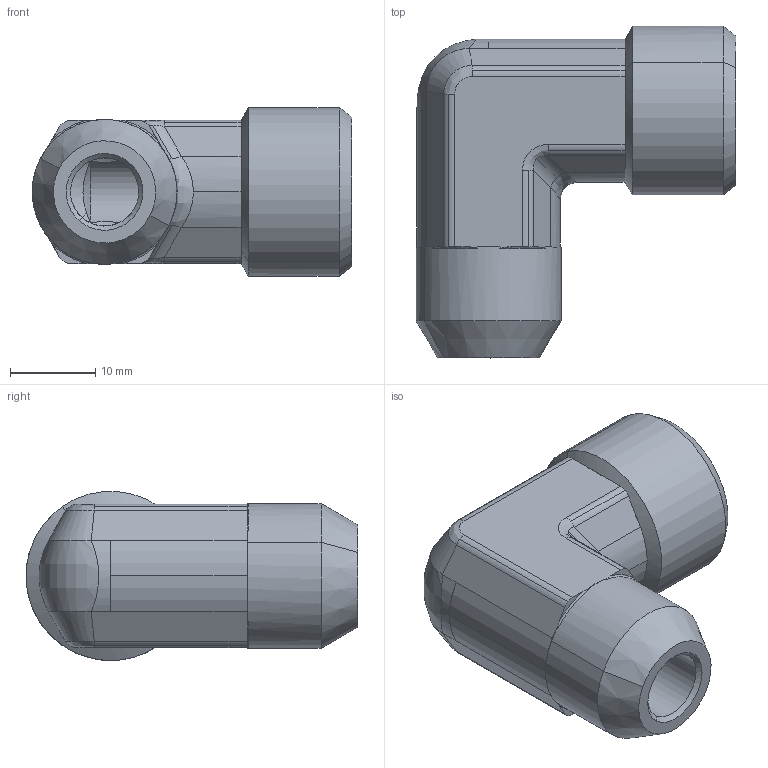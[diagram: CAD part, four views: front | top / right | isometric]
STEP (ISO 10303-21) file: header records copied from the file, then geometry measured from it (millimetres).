
FILE_DESCRIPTION((''),'2;1');
FILE_NAME('105817.stp','2007-10-31T14:41:44',(''),(''),'AutoCAD STEP 2000i','AutoCAD 2000i',', , ');
FILE_SCHEMA(('CONFIG_CONTROL_DESIGN'));
Length unit declared in the file: millimetre
Products named in the file (2): 105817.0; 3090#0
Assembly tree (1 placements, depth 2):
  105817.0
    3090#0
Bounding box: 37.5 x 38.92 x 19.8 mm (x, y, z)
Volume: 10578 mm3; surface area: 5091.7 mm2
Topology: 1 solids, 1 shells, 105 faces, 254 edges, 152 vertices
Faces by surface type: cylinder 42, plane 29, cone 18, bspline 16
Entity records: 4301 total; most frequent: CARTESIAN_POINT 1750, DIRECTION 536, ORIENTED_EDGE 508, EDGE_CURVE 254, AXIS2_PLACEMENT_3D 218, VERTEX_POINT 152, CIRCLE 108, EDGE_LOOP 108
